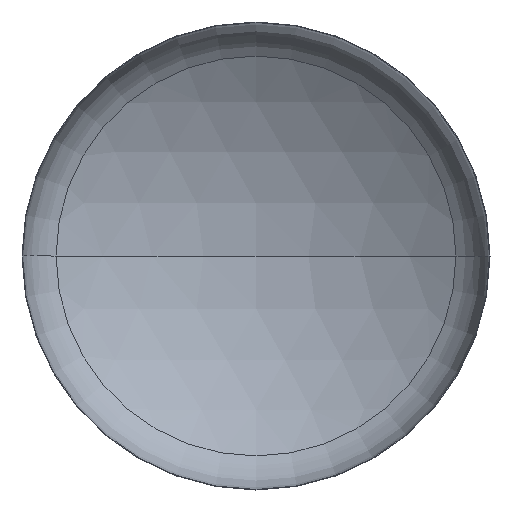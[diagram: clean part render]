
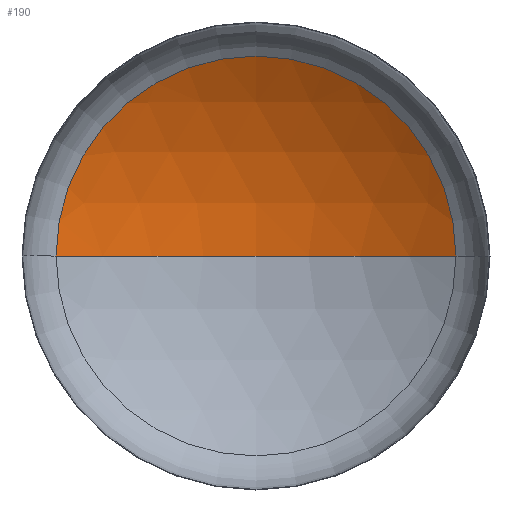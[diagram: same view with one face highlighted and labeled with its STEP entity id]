
A CAD part, front view. The second image highlights one B-rep face of the part: STEP entity #190.
In plain terms, the highlighted spherical face has radius 6000 mm.
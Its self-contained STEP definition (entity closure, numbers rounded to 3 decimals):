
#1 = VERTEX_POINT ( 'NONE', #268 ) ;
#23 = CARTESIAN_POINT ( 'NONE',  ( -3203.715, 1001.569, 0. ) ) ;
#24 = AXIS2_PLACEMENT_3D ( 'NONE', #231, #230, #147 ) ;
#36 = CIRCLE ( 'NONE', #43, 6000. ) ;
#43 = AXIS2_PLACEMENT_3D ( 'NONE', #205, #200, #194 ) ;
#45 = AXIS2_PLACEMENT_3D ( 'NONE', #292, #289, #288 ) ;
#46 = AXIS2_PLACEMENT_3D ( 'NONE', #278, #277, #159 ) ;
#64 = CIRCLE ( 'NONE', #46, 3203.715 ) ;
#76 = EDGE_CURVE ( 'NONE', #1, #235, #64, .T. ) ;
#77 = EDGE_CURVE ( 'NONE', #103, #1, #258, .T. ) ;
#79 = EDGE_CURVE ( 'NONE', #103, #235, #36, .T. ) ;
#103 = VERTEX_POINT ( 'NONE', #160 ) ;
#142 = ORIENTED_EDGE ( 'NONE', *, *, #76, .T. ) ;
#147 = DIRECTION ( 'NONE',  ( -1., 0., 0. ) ) ;
#151 = EDGE_LOOP ( 'NONE', ( #173, #165, #142 ) ) ;
#159 = DIRECTION ( 'NONE',  ( 1., 0., 0. ) ) ;
#160 = CARTESIAN_POINT ( 'NONE',  ( 0., 1928.482, 0. ) ) ;
#162 = FACE_OUTER_BOUND ( 'NONE', #151, .T. ) ;
#165 = ORIENTED_EDGE ( 'NONE', *, *, #77, .T. ) ;
#173 = ORIENTED_EDGE ( 'NONE', *, *, #79, .F. ) ;
#190 = ADVANCED_FACE ( 'NONE', ( #162 ), #249, .F. ) ;
#194 = DIRECTION ( 'NONE',  ( 1., 0., 0. ) ) ;
#200 = DIRECTION ( 'NONE',  ( 0., 0., 1. ) ) ;
#205 = CARTESIAN_POINT ( 'NONE',  ( 0., -4071.518, 0. ) ) ;
#230 = DIRECTION ( 'NONE',  ( 0., 0., -1. ) ) ;
#231 = CARTESIAN_POINT ( 'NONE',  ( 0., -4071.518, 0. ) ) ;
#235 = VERTEX_POINT ( 'NONE', #23 ) ;
#249 = SPHERICAL_SURFACE ( 'NONE', #24, 6000. ) ;
#258 = CIRCLE ( 'NONE', #45, 6000. ) ;
#268 = CARTESIAN_POINT ( 'NONE',  ( 3203.715, 1001.569, 0. ) ) ;
#277 = DIRECTION ( 'NONE',  ( 0., -1., 0. ) ) ;
#278 = CARTESIAN_POINT ( 'NONE',  ( 0., 1001.569, 0. ) ) ;
#288 = DIRECTION ( 'NONE',  ( -1., 0., 0. ) ) ;
#289 = DIRECTION ( 'NONE',  ( 0., 0., -1. ) ) ;
#292 = CARTESIAN_POINT ( 'NONE',  ( 0., -4071.518, 0. ) ) ;
